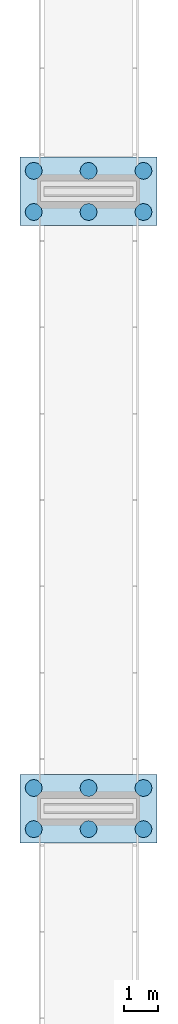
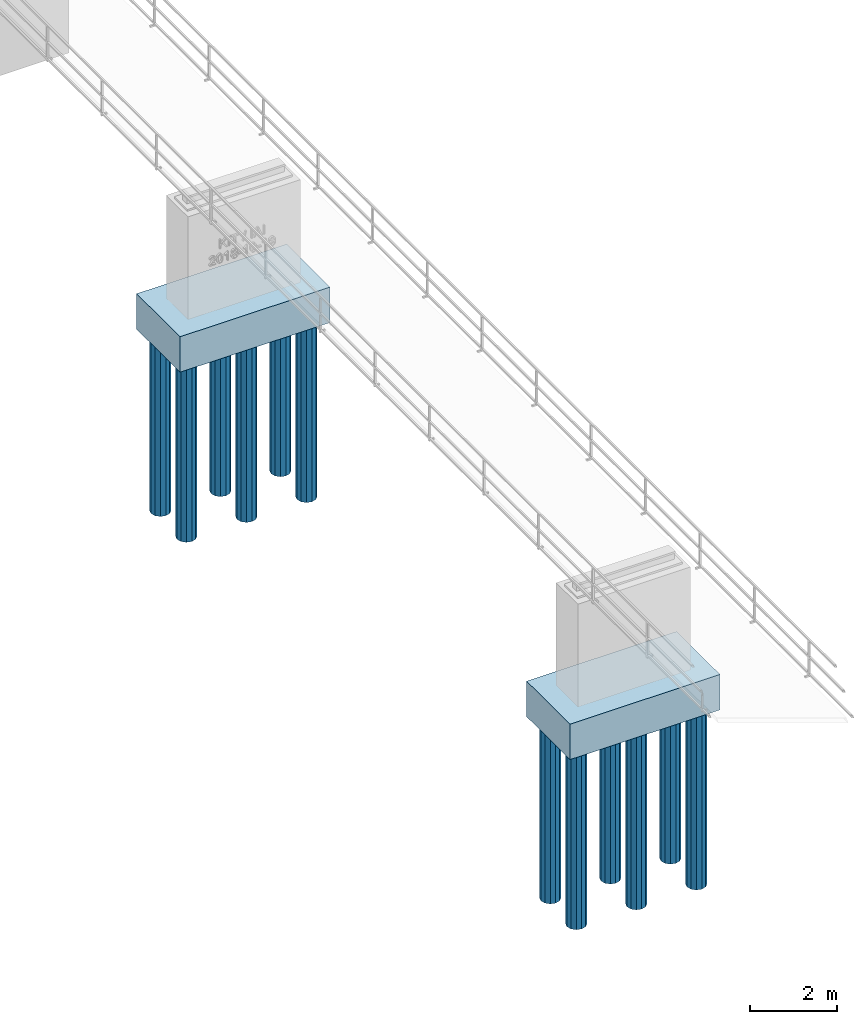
# Not in any storey, part 1 of 5: 12 piles, 2 footings.
"""IFC4X2 model written with IfcOpenShell, lengths in millimetres."""

from ifc_helpers import new_model, entity, si_unit, converted_unit, direction, frame, origin, origin_with_axes, place, context, project, spatial, faceted_brep, element, save


model = new_model("IFC4X2")

# Units and contexts
model_context = context("Model", 3, precision=1e-05, world=origin(), true_north=direction((0.0, 1.0)))
ifc_project = project(units=[si_unit("LENGTHUNIT", "METRE", prefix="MILLI"), si_unit("AREAUNIT", "SQUARE_METRE"), si_unit("VOLUMEUNIT", "CUBIC_METRE"), converted_unit("PLANEANGLEUNIT", "DEGREE", entity("IfcPlaneAngleMeasure", 0.01745), si_unit("PLANEANGLEUNIT", "RADIAN"), dimensions=[0, 0, 0, 0, 0, 0, 0]), si_unit("SOLIDANGLEUNIT", "STERADIAN"), si_unit("MASSUNIT", "GRAM"), si_unit("TIMEUNIT", "SECOND"), si_unit("THERMODYNAMICTEMPERATUREUNIT", "DEGREE_CELSIUS"), si_unit("LUMINOUSINTENSITYUNIT", "LUMEN")], contexts=[model_context])

# Site, bridge, bridge part
placement = place(None, origin_with_axes())
site_placement = place(placement, frame((-19933.8083659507, -30174.99999999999, -13595.54569832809), z_axis=(0.0, 0.0, 1.0), x_axis=(1.0, 0.0, 0.0)))
site = spatial("IfcSite", under=ifc_project, at=site_placement, Name="Default Site", CompositionType="ELEMENT")
bridge_placement = place(placement, origin_with_axes())
bridge = spatial("IfcBridge", under=site, at=bridge_placement, Name="KIT - Bridge", CompositionType="ELEMENT")
bridge_part_placement = place(bridge_placement, origin_with_axes())
bridge_part = spatial("IfcBridgePart", under=bridge, at=bridge_part_placement, Name="Substructure", CompositionType="ELEMENT", PredefinedType="SUPERSTRUCTURE")

# Piles
for number, where, z_axis, x_axis, name in (
    (1, (3350.0, 149.9999999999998, -5999.999999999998), (0.0, 0.0, 1.0), (1.0, 0.0, 0.0), "Pile-2-3"),
    (2, (150.0000000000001, 149.9999999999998, -5999.999999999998), (0.0, 0.0, 1.0), (1.0, 0.0, 0.0), "Pile-2-1"),
    (3, (1750.0, 1349.999999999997, -5999.999999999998), (0.0, 0.0, 1.0), (1.0, 0.0, 0.0), "Pile-2-5"),
    (4, (3350.0, 1349.999999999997, -5999.999999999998), (0.0, 0.0, 1.0), (1.0, 0.0, 0.0), "Pile-2-6"),
    (5, (1750.0, 19349.99999999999, -5999.999999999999), (0.0, 0.0, 1.0), (1.0, 0.0, 0.0), "Pile-1-5"),
    (6, (3350.0, 19349.99999999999, -5999.999999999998), (0.0, 0.0, 1.0), (1.0, 0.0, 0.0), "Pile-1-6"),
    (7, (149.9999999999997, 1349.999999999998, -5999.999999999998), (0.0, 0.0, 1.0), (1.0, 0.0, 0.0), "Pile-2-4"),
):
    element("IfcPile", number, at=place(bridge_part_placement, frame(where, z_axis=z_axis, x_axis=x_axis)), inside=bridge_part, Name=name, ConstructionType="COMPOSITE", PredefinedType="BORED", context=model_context, shape_type="Brep", body=[
        faceted_brep([(374.9999999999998, 33.49364905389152, 5000.0), (249.9999999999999, 0.0, 5000.0), (249.9999999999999, 0.0, 0.0), (374.9999999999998, 33.49364905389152, 0.0), (0.0, 250.0000000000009, 0.0), (33.4936490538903, 375.0000000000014, 0.0), (125.0, 466.5063509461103, 0.0), (249.9999999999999, 500.0000000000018, 0.0), (374.9999999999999, 466.5063509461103, 0.0), (466.5063509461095, 375.0000000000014, 0.0), (499.9999999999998, 250.0000000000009, 0.0), (466.5063509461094, 125.0000000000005, 0.0), (125.0, 33.49364905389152, 0.0), (33.4936490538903, 125.0000000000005, 0.0), (33.4936490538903, 375.0000000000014, 5000.0), (125.0, 466.5063509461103, 5000.0), (125.0, 33.49364905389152, 5000.0), (33.4936490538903, 125.0000000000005, 5000.0), (0.0, 250.0000000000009, 5000.0), (374.9999999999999, 466.5063509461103, 5000.0), (466.5063509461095, 375.0000000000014, 5000.0), (249.9999999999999, 500.0000000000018, 5000.0), (466.5063509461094, 125.0000000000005, 5000.0), (499.9999999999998, 250.0000000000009, 5000.0)], [[[0, 1, 2, 3]], [[4, 5, 6, 7, 8, 9, 10, 11, 3, 2, 12, 13]], [[14, 15, 6, 5]], [[16, 17, 13, 12]], [[17, 18, 4, 13]], [[1, 16, 12, 2]], [[19, 20, 9, 8]], [[15, 21, 7, 6]], [[21, 19, 8, 7]], [[18, 14, 5, 4]], [[22, 0, 3, 11]], [[20, 23, 10, 9]], [[23, 22, 11, 10]], [[14, 18, 17, 16, 1, 0, 22, 23, 20, 19, 21, 15]]]),
    ])

# Footing
footing_1_placement = place(bridge_part_placement, frame((0.0, 0.0, -5000.0), z_axis=(0.0, 0.0, 1.0), x_axis=(1.0, 0.0, 0.0)))
element("IfcFooting", 8, at=footing_1_placement, inside=bridge_part, Name="Foundation-02", context=model_context, shape_type="Brep", body=[
    faceted_brep([(4000.0, 0.0, 5000.0), (0.0, 0.0, 5000.0), (0.0, 0.0, 4000.000000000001), (4000.0, 0.0, 4000.000000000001), (0.0, 1999.999999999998, 5000.0), (4000.0, 1999.999999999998, 5000.0), (4000.0, 1999.999999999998, 4000.000000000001), (0.0, 1999.999999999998, 4000.000000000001)], [[[0, 1, 2, 3]], [[4, 5, 6, 7]], [[2, 7, 6, 3]], [[5, 0, 3, 6]], [[1, 4, 7, 2]], [[4, 1, 0, 5]]]),
])

# Piles
for number, where, z_axis, x_axis, name in (
    (9, (150.0000000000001, 19349.99999999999, -5999.999999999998), (0.0, 0.0, 1.0), (1.0, 0.0, 0.0), "Pile-1-4"),
    (10, (3350.0, 18150.0, -5999.999999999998), (0.0, 0.0, 1.0), (1.0, 0.0, 0.0), "Pile-1-3"),
):
    element("IfcPile", number, at=place(bridge_part_placement, frame(where, z_axis=z_axis, x_axis=x_axis)), inside=bridge_part, Name=name, ConstructionType="COMPOSITE", PredefinedType="BORED", context=model_context, shape_type="Brep", body=[
        faceted_brep([(374.9999999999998, 33.49364905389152, 5000.0), (249.9999999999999, 0.0, 5000.0), (249.9999999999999, 0.0, 0.0), (374.9999999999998, 33.49364905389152, 0.0), (0.0, 250.0000000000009, 0.0), (33.4936490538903, 375.0000000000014, 0.0), (125.0, 466.5063509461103, 0.0), (249.9999999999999, 500.0000000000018, 0.0), (374.9999999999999, 466.5063509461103, 0.0), (466.5063509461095, 375.0000000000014, 0.0), (499.9999999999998, 250.0000000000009, 0.0), (466.5063509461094, 125.0000000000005, 0.0), (125.0, 33.49364905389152, 0.0), (33.4936490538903, 125.0000000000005, 0.0), (33.4936490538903, 375.0000000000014, 5000.0), (125.0, 466.5063509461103, 5000.0), (125.0, 33.49364905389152, 5000.0), (33.4936490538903, 125.0000000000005, 5000.0), (0.0, 250.0000000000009, 5000.0), (374.9999999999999, 466.5063509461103, 5000.0), (466.5063509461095, 375.0000000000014, 5000.0), (249.9999999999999, 500.0000000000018, 5000.0), (466.5063509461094, 125.0000000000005, 5000.0), (499.9999999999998, 250.0000000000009, 5000.0)], [[[0, 1, 2, 3]], [[4, 5, 6, 7, 8, 9, 10, 11, 3, 2, 12, 13]], [[14, 15, 6, 5]], [[16, 17, 13, 12]], [[17, 18, 4, 13]], [[1, 16, 12, 2]], [[19, 20, 9, 8]], [[15, 21, 7, 6]], [[21, 19, 8, 7]], [[18, 14, 5, 4]], [[22, 0, 3, 11]], [[20, 23, 10, 9]], [[23, 22, 11, 10]], [[14, 18, 17, 16, 1, 0, 22, 23, 20, 19, 21, 15]]]),
    ])

# Footing
footing_2_placement = place(bridge_part_placement, frame((0.0, 18000.0, -5000.0), z_axis=(0.0, 0.0, 1.0), x_axis=(1.0, 0.0, 0.0)))
element("IfcFooting", 11, at=footing_2_placement, inside=bridge_part, Name="Foundation-01", context=model_context, shape_type="Brep", body=[
    faceted_brep([(4000.0, 0.0, 5000.0), (0.0, 0.0, 5000.0), (0.0, 0.0, 4000.000000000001), (4000.0, 0.0, 4000.000000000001), (0.0, 1999.999999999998, 5000.0), (4000.0, 1999.999999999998, 5000.0), (4000.0, 1999.999999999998, 4000.000000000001), (0.0, 1999.999999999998, 4000.000000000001)], [[[0, 1, 2, 3]], [[4, 5, 6, 7]], [[2, 7, 6, 3]], [[5, 0, 3, 6]], [[1, 4, 7, 2]], [[4, 1, 0, 5]]]),
])

# Piles
for number, where, z_axis, x_axis, name in (
    (12, (150.0000000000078, 18150.0, -5999.999999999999), (0.0, 0.0, 1.0), (1.0, 0.0, 0.0), "Pile-1-1"),
    (13, (1750.0, 18150.0, -5999.999999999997), (0.0, 0.0, 1.0), (1.0, 0.0, 0.0), "Pile-1-2"),
    (14, (1750.0, 149.9999999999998, -5999.999999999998), (0.0, 0.0, 1.0), (1.0, 0.0, 0.0), "Pile-2-2"),
):
    element("IfcPile", number, at=place(bridge_part_placement, frame(where, z_axis=z_axis, x_axis=x_axis)), inside=bridge_part, Name=name, ConstructionType="COMPOSITE", PredefinedType="BORED", context=model_context, shape_type="Brep", body=[
        faceted_brep([(374.9999999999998, 33.49364905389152, 5000.0), (249.9999999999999, 0.0, 5000.0), (249.9999999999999, 0.0, 0.0), (374.9999999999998, 33.49364905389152, 0.0), (0.0, 250.0000000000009, 0.0), (33.4936490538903, 375.0000000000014, 0.0), (125.0, 466.5063509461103, 0.0), (249.9999999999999, 500.0000000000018, 0.0), (374.9999999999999, 466.5063509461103, 0.0), (466.5063509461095, 375.0000000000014, 0.0), (499.9999999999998, 250.0000000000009, 0.0), (466.5063509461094, 125.0000000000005, 0.0), (125.0, 33.49364905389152, 0.0), (33.4936490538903, 125.0000000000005, 0.0), (33.4936490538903, 375.0000000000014, 5000.0), (125.0, 466.5063509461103, 5000.0), (125.0, 33.49364905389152, 5000.0), (33.4936490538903, 125.0000000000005, 5000.0), (0.0, 250.0000000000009, 5000.0), (374.9999999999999, 466.5063509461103, 5000.0), (466.5063509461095, 375.0000000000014, 5000.0), (249.9999999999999, 500.0000000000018, 5000.0), (466.5063509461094, 125.0000000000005, 5000.0), (499.9999999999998, 250.0000000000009, 5000.0)], [[[0, 1, 2, 3]], [[4, 5, 6, 7, 8, 9, 10, 11, 3, 2, 12, 13]], [[14, 15, 6, 5]], [[16, 17, 13, 12]], [[17, 18, 4, 13]], [[1, 16, 12, 2]], [[19, 20, 9, 8]], [[15, 21, 7, 6]], [[21, 19, 8, 7]], [[18, 14, 5, 4]], [[22, 0, 3, 11]], [[20, 23, 10, 9]], [[23, 22, 11, 10]], [[14, 18, 17, 16, 1, 0, 22, 23, 20, 19, 21, 15]]]),
    ])

save(model, "model.ifc")
